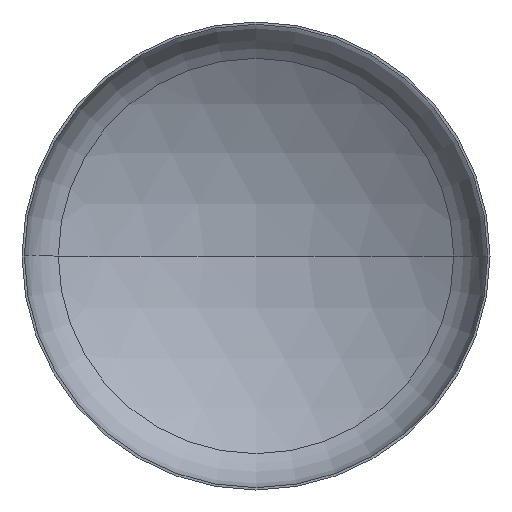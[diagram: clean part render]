
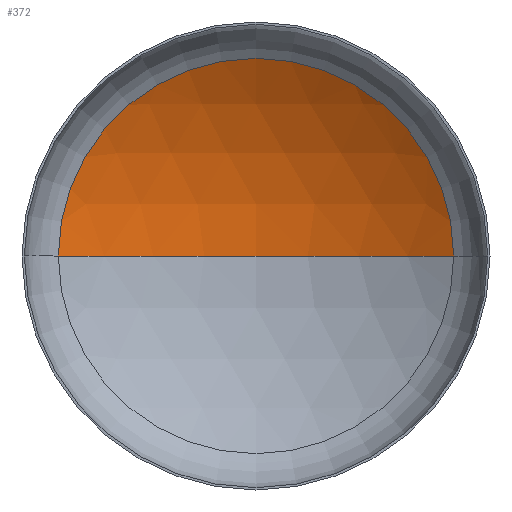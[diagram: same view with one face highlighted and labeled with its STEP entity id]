
A CAD part, front view. The second image highlights one B-rep face of the part: STEP entity #372.
In plain terms, the highlighted spherical face has radius 5200 mm.
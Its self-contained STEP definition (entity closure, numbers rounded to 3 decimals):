
#27 = VERTEX_POINT ( 'NONE', #181 ) ;
#29 = SPHERICAL_SURFACE ( 'NONE', #173, 5200. ) ;
#35 = ORIENTED_EDGE ( 'NONE', *, *, #161, .T. ) ;
#45 = ORIENTED_EDGE ( 'NONE', *, *, #164, .T. ) ;
#62 = FACE_OUTER_BOUND ( 'NONE', #91, .T. ) ;
#66 = VERTEX_POINT ( 'NONE', #238 ) ;
#87 = CARTESIAN_POINT ( 'NONE',  ( 0., -3467.199, 0. ) ) ;
#91 = EDGE_LOOP ( 'NONE', ( #103, #45, #35 ) ) ;
#94 = CARTESIAN_POINT ( 'NONE',  ( 0., 949.333, 0. ) ) ;
#103 = ORIENTED_EDGE ( 'NONE', *, *, #169, .F. ) ;
#104 = AXIS2_PLACEMENT_3D ( 'NONE', #170, #157, #155 ) ;
#107 = AXIS2_PLACEMENT_3D ( 'NONE', #87, #340, #357 ) ;
#114 = AXIS2_PLACEMENT_3D ( 'NONE', #94, #129, #134 ) ;
#129 = DIRECTION ( 'NONE',  ( 0., -1., 0. ) ) ;
#134 = DIRECTION ( 'NONE',  ( 1., 0., 0. ) ) ;
#136 = VERTEX_POINT ( 'NONE', #288 ) ;
#155 = DIRECTION ( 'NONE',  ( 1., 0., 0. ) ) ;
#157 = DIRECTION ( 'NONE',  ( 0., 0., 1. ) ) ;
#161 = EDGE_CURVE ( 'NONE', #66, #27, #349, .T. ) ;
#163 = CIRCLE ( 'NONE', #104, 5200. ) ;
#164 = EDGE_CURVE ( 'NONE', #136, #66, #296, .T. ) ;
#169 = EDGE_CURVE ( 'NONE', #136, #27, #163, .T. ) ;
#170 = CARTESIAN_POINT ( 'NONE',  ( 0., -3467.199, 0. ) ) ;
#173 = AXIS2_PLACEMENT_3D ( 'NONE', #200, #244, #354 ) ;
#181 = CARTESIAN_POINT ( 'NONE',  ( -2744.857, 949.333, 0. ) ) ;
#200 = CARTESIAN_POINT ( 'NONE',  ( 0., -3467.199, 0. ) ) ;
#238 = CARTESIAN_POINT ( 'NONE',  ( 2744.857, 949.333, 0. ) ) ;
#244 = DIRECTION ( 'NONE',  ( 0., 0., -1. ) ) ;
#288 = CARTESIAN_POINT ( 'NONE',  ( 0., 1732.801, 0. ) ) ;
#296 = CIRCLE ( 'NONE', #107, 5200. ) ;
#340 = DIRECTION ( 'NONE',  ( 0., 0., -1. ) ) ;
#349 = CIRCLE ( 'NONE', #114, 2744.857 ) ;
#354 = DIRECTION ( 'NONE',  ( -1., 0., 0. ) ) ;
#357 = DIRECTION ( 'NONE',  ( -1., 0., 0. ) ) ;
#372 = ADVANCED_FACE ( 'NONE', ( #62 ), #29, .F. ) ;
